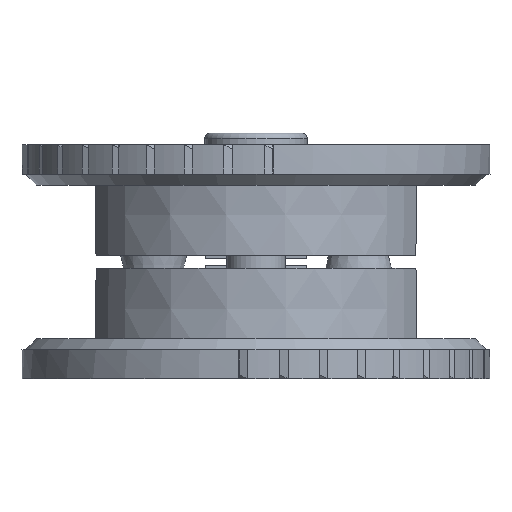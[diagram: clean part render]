
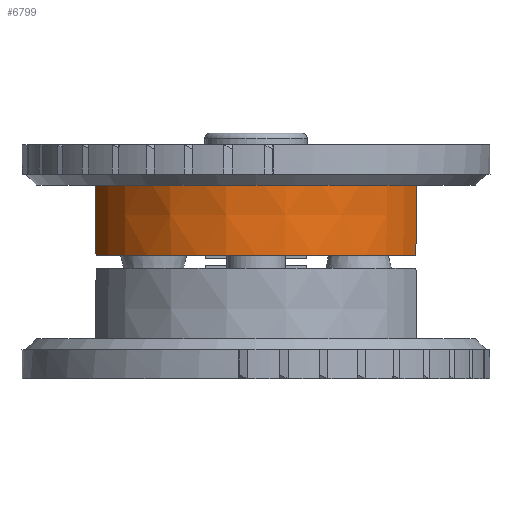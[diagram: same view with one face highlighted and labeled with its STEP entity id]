
A CAD part, left-side view. The second image highlights one B-rep face of the part: STEP entity #6799.
In plain terms, the highlighted conical face has half-angle 0.8 degrees and reference radius 11.705 mm.
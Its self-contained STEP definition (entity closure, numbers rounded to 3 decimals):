
#1470=(
BOUNDED_CURVE()
B_SPLINE_CURVE(2,(#11109,#11110,#11111),.UNSPECIFIED.,.F.,.F.)
B_SPLINE_CURVE_WITH_KNOTS((3,3),(60.668,61.085),
 .UNSPECIFIED.)
CURVE()
GEOMETRIC_REPRESENTATION_ITEM()
RATIONAL_B_SPLINE_CURVE((1.,1.,1.))
REPRESENTATION_ITEM($)
);
#1471=(
BOUNDED_CURVE()
B_SPLINE_CURVE(2,(#11114,#11115,#11116),.UNSPECIFIED.,.F.,.F.)
B_SPLINE_CURVE_WITH_KNOTS((3,3),(303.936,304.353),
 .UNSPECIFIED.)
CURVE()
GEOMETRIC_REPRESENTATION_ITEM()
RATIONAL_B_SPLINE_CURVE((1.,1.,1.))
REPRESENTATION_ITEM($)
);
#2048=FACE_OUTER_BOUND($,#2472,.T.);
#2472=EDGE_LOOP($,(#5398,#5399,#5400,#5401));
#2742=CIRCLE($,#7269,11.627);
#2743=CIRCLE($,#7270,11.705);
#3174=VERTEX_POINT($,#11105);
#3175=VERTEX_POINT($,#11106);
#3176=VERTEX_POINT($,#11108);
#3177=VERTEX_POINT($,#11112);
#3959=EDGE_CURVE($,#3174,#3175,#2742,.T.);
#3960=EDGE_CURVE($,#3174,#3176,#1470,.F.);
#3961=EDGE_CURVE($,#3177,#3176,#2743,.T.);
#3962=EDGE_CURVE($,#3177,#3175,#1471,.F.);
#5398=ORIENTED_EDGE($,*,*,#3959,.F.);
#5399=ORIENTED_EDGE($,*,*,#3960,.T.);
#5400=ORIENTED_EDGE($,*,*,#3961,.F.);
#5401=ORIENTED_EDGE($,*,*,#3962,.T.);
#6178=CONICAL_SURFACE($,#7268,11.705,0.8);
#6799=ADVANCED_FACE($,(#2048),#6178,.T.);
#7268=AXIS2_PLACEMENT_3D($,#11104,#8364,#8365);
#7269=AXIS2_PLACEMENT_3D($,#11107,#8366,#8367);
#7270=AXIS2_PLACEMENT_3D($,#11113,#8368,#8369);
#8364=DIRECTION('center_axis',(0.,0.,1.));
#8365=DIRECTION('ref_axis',(-0.342,-0.94,0.));
#8366=DIRECTION('center_axis',(0.,0.,-1.));
#8367=DIRECTION('ref_axis',(-0.342,-0.94,0.));
#8368=DIRECTION('center_axis',(0.,0.,1.));
#8369=DIRECTION('ref_axis',(-0.342,-0.94,0.));
#11104=CARTESIAN_POINT('Origin',(8.798,7.257,5.75));
#11105=CARTESIAN_POINT('',(4.811,-3.666,0.2));
#11106=CARTESIAN_POINT('',(4.838,18.189,0.2));
#11107=CARTESIAN_POINT('Origin',(8.798,7.257,0.2));
#11108=CARTESIAN_POINT('',(4.798,-3.743,5.75));
#11109=CARTESIAN_POINT('Ctrl Pts',(4.798,-3.743,5.75));
#11110=CARTESIAN_POINT('Ctrl Pts',(4.805,-3.704,2.97));
#11111=CARTESIAN_POINT('Ctrl Pts',(4.811,-3.666,0.2));
#11112=CARTESIAN_POINT('',(4.825,18.267,5.75));
#11113=CARTESIAN_POINT('Origin',(8.798,7.257,5.75));
#11114=CARTESIAN_POINT('Ctrl Pts',(4.838,18.189,0.2));
#11115=CARTESIAN_POINT('Ctrl Pts',(4.831,18.228,2.97));
#11116=CARTESIAN_POINT('Ctrl Pts',(4.825,18.267,5.75));
